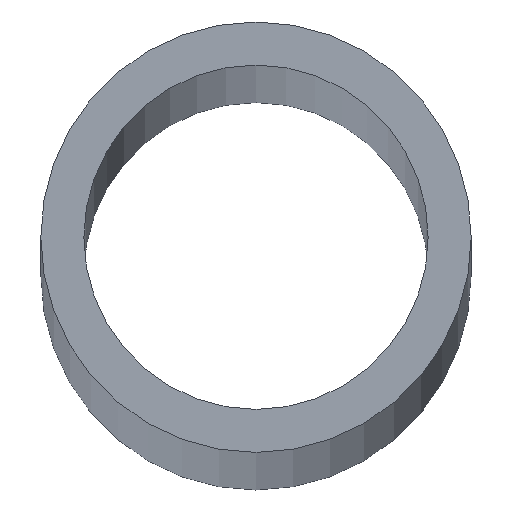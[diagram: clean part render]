
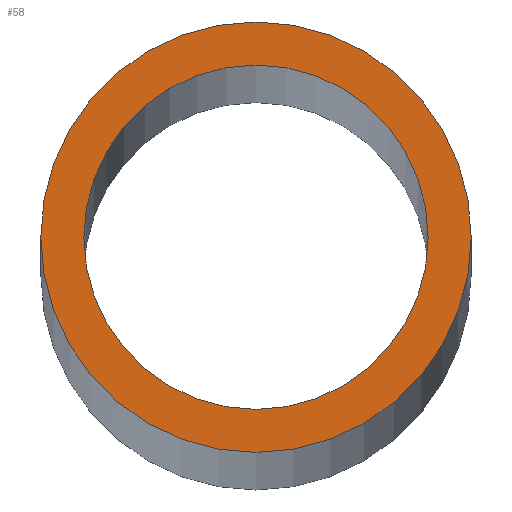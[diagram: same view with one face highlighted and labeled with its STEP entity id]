
A CAD part, top view. The second image highlights one B-rep face of the part: STEP entity #58.
In plain terms, the highlighted planar face has unit normal (0, 0, 1).
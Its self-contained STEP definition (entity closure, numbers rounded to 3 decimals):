
#2 = CIRCLE ( 'NONE', #27, 8. ) ;
#5 = CARTESIAN_POINT ( 'NONE',  ( 0., 0., 1000. ) ) ;
#6 = DIRECTION ( 'NONE',  ( 1., 0., 0. ) ) ;
#13 = PLANE ( 'NONE',  #206 ) ;
#16 = CARTESIAN_POINT ( 'NONE',  ( 10., 0., 1000. ) ) ;
#24 = FACE_OUTER_BOUND ( 'NONE', #25, .T. ) ;
#25 = EDGE_LOOP ( 'NONE', ( #95, #128 ) ) ;
#27 = AXIS2_PLACEMENT_3D ( 'NONE', #85, #214, #122 ) ;
#30 = CIRCLE ( 'NONE', #169, 10. ) ;
#31 = VERTEX_POINT ( 'NONE', #16 ) ;
#37 = CIRCLE ( 'NONE', #170, 8. ) ;
#56 = CARTESIAN_POINT ( 'NONE',  ( 0., 0., 1000. ) ) ;
#57 = CARTESIAN_POINT ( 'NONE',  ( 0., 0., 1000. ) ) ;
#58 = ADVANCED_FACE ( 'NONE', ( #24, #82 ), #13, .T. ) ;
#61 = VERTEX_POINT ( 'NONE', #179 ) ;
#67 = EDGE_LOOP ( 'NONE', ( #213, #108 ) ) ;
#72 = DIRECTION ( 'NONE',  ( 1., 0., 0. ) ) ;
#75 = CIRCLE ( 'NONE', #204, 10. ) ;
#76 = EDGE_CURVE ( 'NONE', #189, #117, #2, .T. ) ;
#82 = FACE_BOUND ( 'NONE', #67, .T. ) ;
#85 = CARTESIAN_POINT ( 'NONE',  ( 0., 0., 1000. ) ) ;
#92 = DIRECTION ( 'NONE',  ( 0., 0., 1. ) ) ;
#95 = ORIENTED_EDGE ( 'NONE', *, *, #167, .T. ) ;
#106 = DIRECTION ( 'NONE',  ( 0., 0., 1. ) ) ;
#108 = ORIENTED_EDGE ( 'NONE', *, *, #173, .F. ) ;
#117 = VERTEX_POINT ( 'NONE', #175 ) ;
#122 = DIRECTION ( 'NONE',  ( 1., 0., 0. ) ) ;
#124 = CARTESIAN_POINT ( 'NONE',  ( -8., 0., 1000. ) ) ;
#125 = DIRECTION ( 'NONE',  ( 0., 0., 1. ) ) ;
#127 = DIRECTION ( 'NONE',  ( 1., 0., 0. ) ) ;
#128 = ORIENTED_EDGE ( 'NONE', *, *, #202, .T. ) ;
#138 = CARTESIAN_POINT ( 'NONE',  ( 0., 0., 1000. ) ) ;
#165 = DIRECTION ( 'NONE',  ( 0., 0., 1. ) ) ;
#167 = EDGE_CURVE ( 'NONE', #61, #31, #75, .T. ) ;
#169 = AXIS2_PLACEMENT_3D ( 'NONE', #57, #92, #72 ) ;
#170 = AXIS2_PLACEMENT_3D ( 'NONE', #5, #165, #127 ) ;
#173 = EDGE_CURVE ( 'NONE', #117, #189, #37, .T. ) ;
#175 = CARTESIAN_POINT ( 'NONE',  ( 8., 0., 1000. ) ) ;
#179 = CARTESIAN_POINT ( 'NONE',  ( -10., 0., 1000. ) ) ;
#189 = VERTEX_POINT ( 'NONE', #124 ) ;
#202 = EDGE_CURVE ( 'NONE', #31, #61, #30, .T. ) ;
#204 = AXIS2_PLACEMENT_3D ( 'NONE', #56, #125, #6 ) ;
#206 = AXIS2_PLACEMENT_3D ( 'NONE', #138, #106, #210 ) ;
#210 = DIRECTION ( 'NONE',  ( 1., 0., 0. ) ) ;
#213 = ORIENTED_EDGE ( 'NONE', *, *, #76, .F. ) ;
#214 = DIRECTION ( 'NONE',  ( 0., 0., 1. ) ) ;
